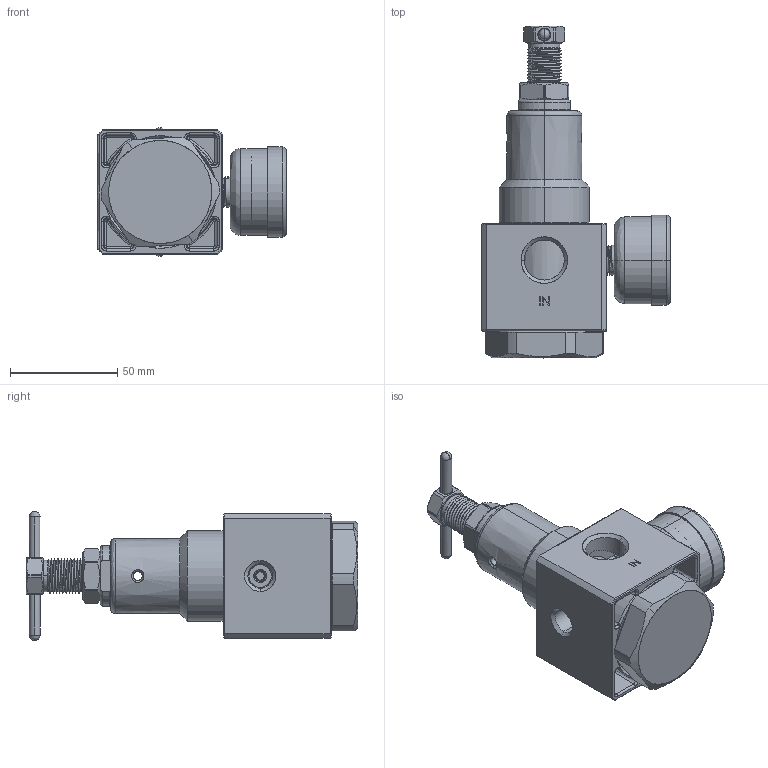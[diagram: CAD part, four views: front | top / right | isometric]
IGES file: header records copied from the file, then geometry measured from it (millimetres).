
Start section: SolidWorks IGES file using analytic representation for surfaces
Bounding box: 87.55 x 154.5 x 60 mm (x, y, z)
Surface area: 79280.1 mm2 (no closed solid volume)
Topology: 0 solids, 0 shells, 902 faces, 12763 edges, 12754 vertices
Faces by surface type: bspline 494, revolution 408
